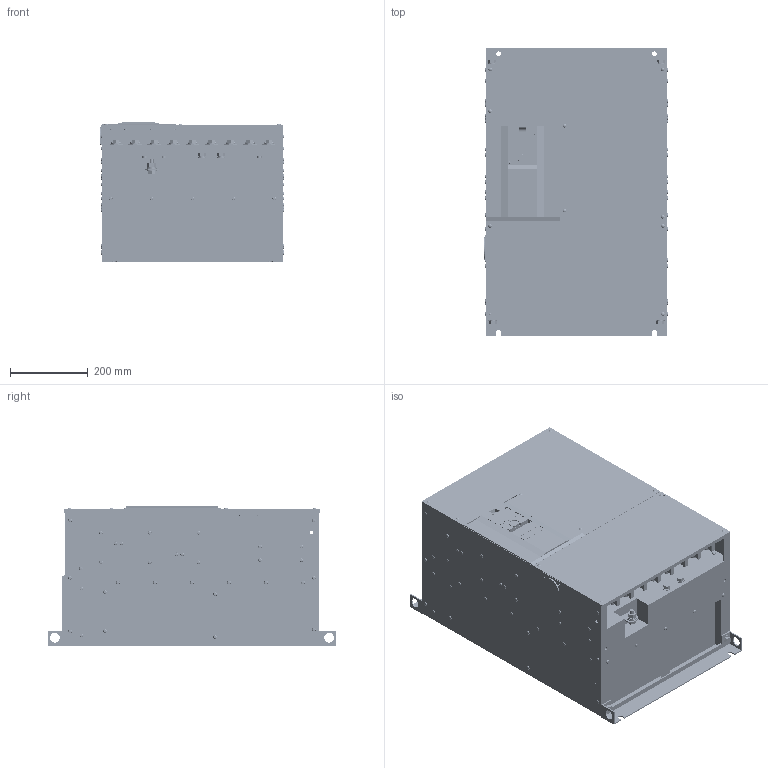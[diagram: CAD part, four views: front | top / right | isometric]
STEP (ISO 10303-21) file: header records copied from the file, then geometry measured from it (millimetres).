
FILE_DESCRIPTION((''),'2;1');
FILE_NAME('3D-INV-A8-02_17_ASM','2014-01-24T',('UJ56049'),(''),'PRO/ENGINEER BY PARAMETRIC TECHNOLOGY CORPORATION, 2011490','PRO/ENGINEER BY PARAMETRIC TECHNOLOGY CORPORATION, 2011490','');
FILE_SCHEMA(('CONFIG_CONTROL_DESIGN'));
Products named in the file (32): 3D-BASE-A8-02_17; 3D-WAKU-A8-02_17_ASM; 3D-ASHI-UPR-A8-02_17; 3D-BOLT-SW-PW-M10X25_; 3D-BOLT-ASHI-UPR-A8-02_17_ASM; 3D-ASHI_LWR-A8-02_17; 3D-BOLT-ASHI-LWR-A8-02_17_ASM; 3D-BUSH-A8; 3D-BUSH-A8_ASM; 3D-FAN_MMF-12D24DS_120-38-A8; 3D-FAN_ASSY-A8-02_17_ASM; 3D-FAN_COV-A8; 3D-FAN-COV-A8-02_17_ASM; 3D-TE_NEJI-M4X8_; 3D-TE_COV-R1S1_; 3D-TE_ASSY-R1S1_ASM; 3D-TA-A8; 3D-A8-TA_ASM; 3D-M10X30-A8; 3D-M10X30-A8_ASM; 3D-BOLT-DOT-P1-A8-02_17; 3D-BOLT-DOT-P1-A8-02_17_ASM; 3D-BOLT_DOT-A8-02_17_ASM; 3D-CA_COVER-A8; 3D-DU_ASSY-A8; 3D-IF_COV-A80; 3D-SC-PN-BD-M4X10-BZN-A8; 3D-CA_COV-A8_ASM; 3D-COV-LWR-A8-02_17; 3D-SC-M4X10-BZN; 3D-BOLT-COV-LWR-A8-02_17_ASM; 3D-INV-A8-02_17_ASM
Assembly tree (55 placements, depth 4):
  3D-INV-A8-02_17_ASM
    3D-WAKU-A8-02_17_ASM
      3D-BASE-A8-02_17
    3D-ASHI-UPR-A8-02_17
    3D-BOLT-ASHI-UPR-A8-02_17_ASM
      3D-BOLT-SW-PW-M10X25_  x2
    3D-ASHI_LWR-A8-02_17
    3D-BOLT-ASHI-LWR-A8-02_17_ASM
      3D-BOLT-SW-PW-M10X25_  x2
    3D-BUSH-A8_ASM
      3D-BUSH-A8
    3D-FAN_ASSY-A8-02_17_ASM
      3D-FAN_MMF-12D24DS_120-38-A8  x3
    3D-FAN-COV-A8-02_17_ASM
      3D-FAN_COV-A8  x3
    3D-BOLT-SW-PW-M10X25_  x2
    3D-TE_ASSY-R1S1_ASM
      3D-TE_NEJI-M4X8_  x4
      3D-TE_COV-R1S1_
    3D-A8-TA_ASM
      3D-TA-A8
    3D-BOLT_DOT-A8-02_17_ASM
      3D-M10X30-A8_ASM  x9
        3D-M10X30-A8
      3D-BOLT-DOT-P1-A8-02_17_ASM
        3D-BOLT-DOT-P1-A8-02_17
    3D-CA_COV-A8_ASM
      3D-CA_COVER-A8
      3D-DU_ASSY-A8
      3D-IF_COV-A80
      3D-SC-PN-BD-M4X10-BZN-A8  x2
    3D-COV-LWR-A8-02_17
    3D-BOLT-COV-LWR-A8-02_17_ASM
      3D-SC-M4X10-BZN  x4
Bounding box: 471.7 x 740 x 361 mm (x, y, z)
Volume: 93288150.2 mm3; surface area: 3422843.3 mm2
Topology: 47 solids, 64 shells, 5709 faces, 15273 edges, 9974 vertices
Faces by surface type: plane 3796, cylinder 1488, torus 212, sphere 80, cone 70, bspline 63
Entity records: 135430 total; most frequent: CARTESIAN_POINT 24280, DIRECTION 23086, ORIENTED_EDGE 22754, EDGE_CURVE 11377, VECTOR 8218, LINE 8218, VERTEX_POINT 7478, AXIS2_PLACEMENT_3D 7434
